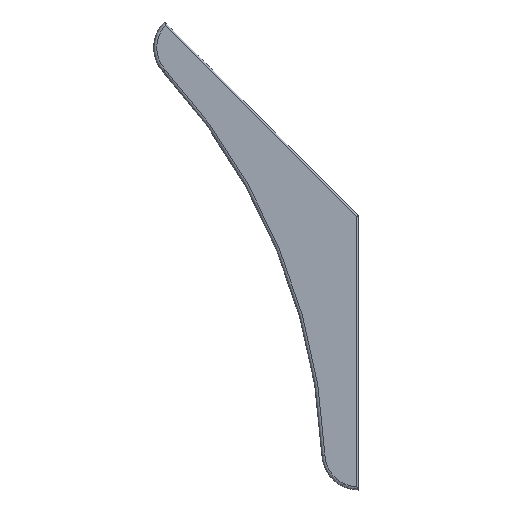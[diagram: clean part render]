
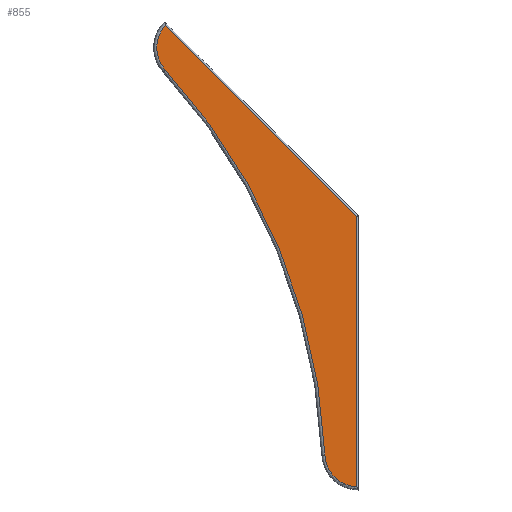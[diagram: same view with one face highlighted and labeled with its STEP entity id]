
A CAD part, top view. The second image highlights one B-rep face of the part: STEP entity #855.
In plain terms, the highlighted planar face has unit normal (0, 0, 1).
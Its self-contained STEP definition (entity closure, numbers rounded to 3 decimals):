
#43 = CARTESIAN_POINT ( 'NONE',  ( 38.908, 46.908, 10. ) ) ;
#188 = DIRECTION ( 'NONE',  ( 0., 0., -1. ) ) ;
#309 = DIRECTION ( 'NONE',  ( 0., 0., 1. ) ) ;
#394 = EDGE_CURVE ( 'NONE', #740, #1502, #2652, .T. ) ;
#420 = CARTESIAN_POINT ( 'NONE',  ( -0.5, 86.317, 10. ) ) ;
#497 = EDGE_CURVE ( 'NONE', #1502, #1783, #1922, .T. ) ;
#525 = FACE_OUTER_BOUND ( 'NONE', #1577, .T. ) ;
#542 = VECTOR ( 'NONE', #731, 1000. ) ;
#559 = EDGE_CURVE ( 'NONE', #2050, #740, #2243, .T. ) ;
#582 = AXIS2_PLACEMENT_3D ( 'NONE', #995, #1844, #2671 ) ;
#638 = ORIENTED_EDGE ( 'NONE', *, *, #1334, .T. ) ;
#731 = DIRECTION ( 'NONE',  ( -0.707, 0.707, 0. ) ) ;
#740 = VERTEX_POINT ( 'NONE', #2212 ) ;
#855 = ADVANCED_FACE ( 'NONE', ( #525 ), #1628, .F. ) ;
#864 = AXIS2_PLACEMENT_3D ( 'NONE', #2073, #188, #2099 ) ;
#979 = CARTESIAN_POINT ( 'NONE',  ( -10.99, 7.522, 10. ) ) ;
#995 = CARTESIAN_POINT ( 'NONE',  ( -55.525, 142.049, 10. ) ) ;
#1146 = LINE ( 'NONE', #2395, #1782 ) ;
#1218 = CARTESIAN_POINT ( 'NONE',  ( 0., 8., 10. ) ) ;
#1275 = AXIS2_PLACEMENT_3D ( 'NONE', #2069, #309, #2657 ) ;
#1334 = EDGE_CURVE ( 'NONE', #2120, #2050, #1972, .T. ) ;
#1388 = DIRECTION ( 'NONE',  ( -1., 0., 0. ) ) ;
#1500 = EDGE_CURVE ( 'NONE', #1783, #2120, #1146, .T. ) ;
#1502 = VERTEX_POINT ( 'NONE', #979 ) ;
#1577 = EDGE_LOOP ( 'NONE', ( #1815, #1804, #638, #1897, #2180 ) ) ;
#1628 = PLANE ( 'NONE',  #2019 ) ;
#1782 = VECTOR ( 'NONE', #2002, 1000. ) ;
#1783 = VERTEX_POINT ( 'NONE', #2584 ) ;
#1804 = ORIENTED_EDGE ( 'NONE', *, *, #1500, .T. ) ;
#1815 = ORIENTED_EDGE ( 'NONE', *, *, #497, .T. ) ;
#1844 = DIRECTION ( 'NONE',  ( 0., 0., 1. ) ) ;
#1868 = DIRECTION ( 'NONE',  ( 0., 0., -1. ) ) ;
#1897 = ORIENTED_EDGE ( 'NONE', *, *, #559, .T. ) ;
#1922 = CIRCLE ( 'NONE', #1275, 11. ) ;
#1972 = LINE ( 'NONE', #43, #542 ) ;
#2002 = DIRECTION ( 'NONE',  ( 0., 1., 0. ) ) ;
#2019 = AXIS2_PLACEMENT_3D ( 'NONE', #1218, #1868, #1388 ) ;
#2050 = VERTEX_POINT ( 'NONE', #2191 ) ;
#2069 = CARTESIAN_POINT ( 'NONE',  ( 0., 8., 10. ) ) ;
#2073 = CARTESIAN_POINT ( 'NONE',  ( -211.8, -1.206, 10. ) ) ;
#2099 = DIRECTION ( 'NONE',  ( -1., 0., 0. ) ) ;
#2120 = VERTEX_POINT ( 'NONE', #420 ) ;
#2180 = ORIENTED_EDGE ( 'NONE', *, *, #394, .T. ) ;
#2191 = CARTESIAN_POINT ( 'NONE',  ( -63.649, 149.465, 10. ) ) ;
#2212 = CARTESIAN_POINT ( 'NONE',  ( -63.633, 134.616, 10. ) ) ;
#2243 = CIRCLE ( 'NONE', #582, 11. ) ;
#2395 = CARTESIAN_POINT ( 'NONE',  ( -0.5, 8., 10. ) ) ;
#2584 = CARTESIAN_POINT ( 'NONE',  ( -0.5, -2.989, 10. ) ) ;
#2652 = CIRCLE ( 'NONE', #864, 201. ) ;
#2657 = DIRECTION ( 'NONE',  ( -1., 0., 0. ) ) ;
#2671 = DIRECTION ( 'NONE',  ( -1., 0., 0. ) ) ;
